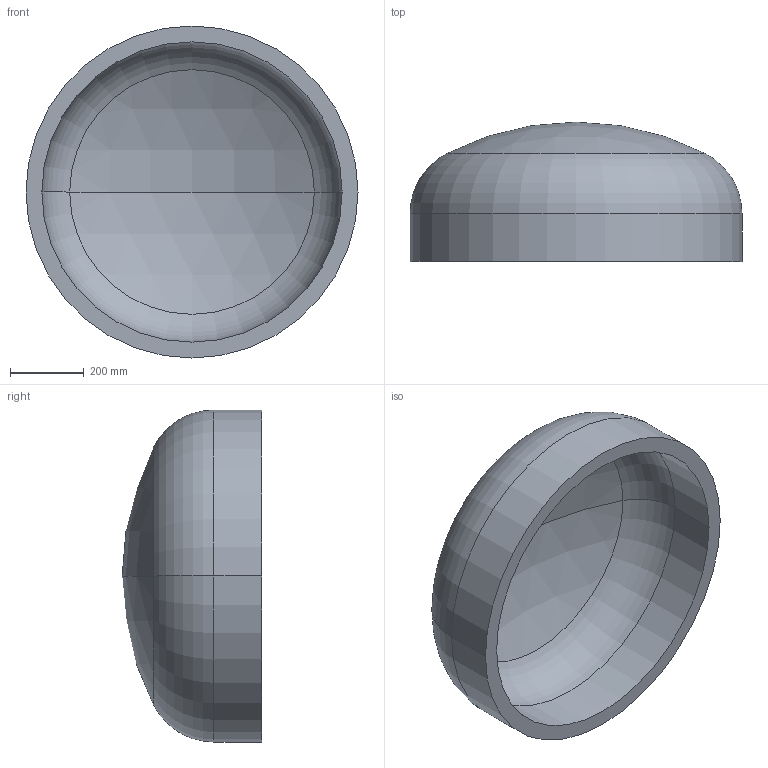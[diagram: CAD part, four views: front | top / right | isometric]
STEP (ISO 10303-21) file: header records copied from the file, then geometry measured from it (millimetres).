
FILE_DESCRIPTION (( 'STEP AP203' ), '1' );
FILE_NAME ('DIN 28013 Korbbogenform_-_Boden DIN 28013 - 900 x 130 - I - s=43.step', '2016-07-01T08:31:50', ( '' ), ( '' ), 'SwSTEP 2.0', 'SolidWorks 2013', '' );
FILE_SCHEMA (( 'CONFIG_CONTROL_DESIGN' ));
Length unit declared in the file: millimetre
Products named in the file (1): DIN 28013 Korbbogenform_-_Boden DIN 28013 - 900 x 130 - I - s=43
Bounding box: 900 x 378.11 x 900 mm (x, y, z)
Volume: 50750479.6 mm3; surface area: 2480130.3 mm2
Topology: 1 solids, 1 shells, 13 faces, 24 edges, 14 vertices
Faces by surface type: torus 4, cylinder 4, sphere 4, plane 1
Entity records: 407 total; most frequent: DIRECTION 72, CARTESIAN_POINT 52, ORIENTED_EDGE 48, AXIS2_PLACEMENT_3D 34, EDGE_CURVE 24, CIRCLE 20, VERTEX_POINT 14, EDGE_LOOP 14
